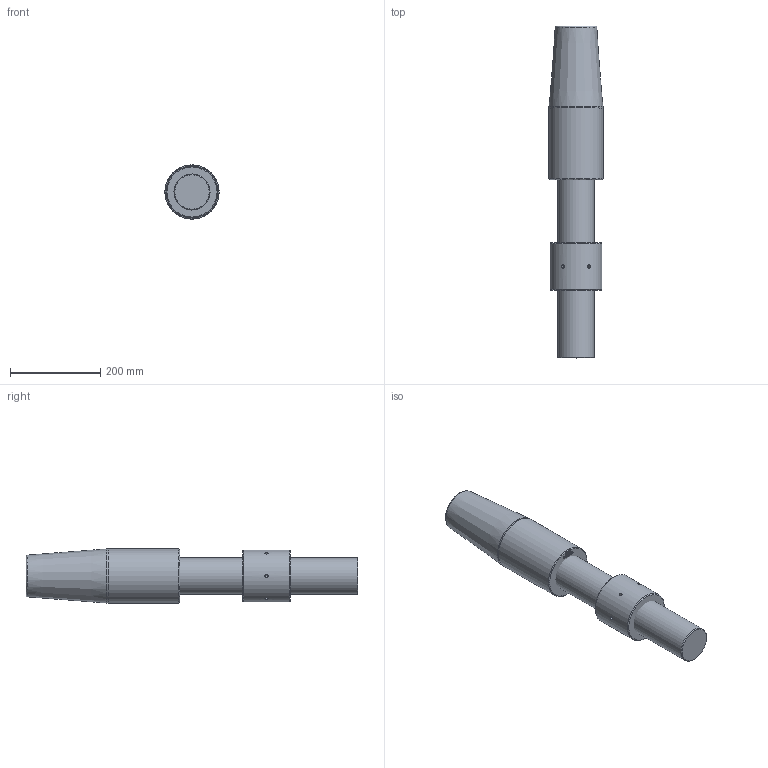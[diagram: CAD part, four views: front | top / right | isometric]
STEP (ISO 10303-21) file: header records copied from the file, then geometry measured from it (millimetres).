
FILE_DESCRIPTION(/* description */ (''),/* implementation_level */ '2;1');
FILE_NAME(/* name */ 'C:\Users\ranca\Desktop\CYM\ARRANGEMENT\CYM040 52 061 0.stp',/* time_stamp */ '2021-04-22T18:37:51+02:00',/* author */ ('ranca'),/* organization */ (''),/* preprocessor_version */ 'ST-DEVELOPER v16.13',/* originating_system */ 'Autodesk Inventor 2018',/* authorisation */ '');
FILE_SCHEMA (('AUTOMOTIVE_DESIGN { 1 0 10303 214 3 1 1 }'));
Length unit declared in the file: millimetre
Products named in the file (4): CYM040-52-061-0; CYM012-52-061-0_ROD; CYC040 52 065 0_CYL SOK_RH; CYM040-41-051-0
Assembly tree (3 placements, depth 2):
  CYM040-52-061-0
    CYM012-52-061-0_ROD
    CYC040 52 065 0_CYL SOK_RH
    CYM040-41-051-0
Bounding box: 120 x 735 x 120 mm (x, y, z)
Volume: 7006132.5 mm3; surface area: 331762.8 mm2
Topology: 3 solids, 3 shells, 502 faces, 1336 edges, 888 vertices
Faces by surface type: bspline 248, plane 232, cone 11, cylinder 9, torus 2
Full cylindrical faces by diameter (mm): 7 x6, 80 x1, 115 x1, 120 x1
Entity records: 16939 total; most frequent: CARTESIAN_POINT 6147, ORIENTED_EDGE 2614, DIRECTION 1344, EDGE_CURVE 1307, VERTEX_POINT 882, LINE 778, VECTOR 778, EDGE_LOOP 573
